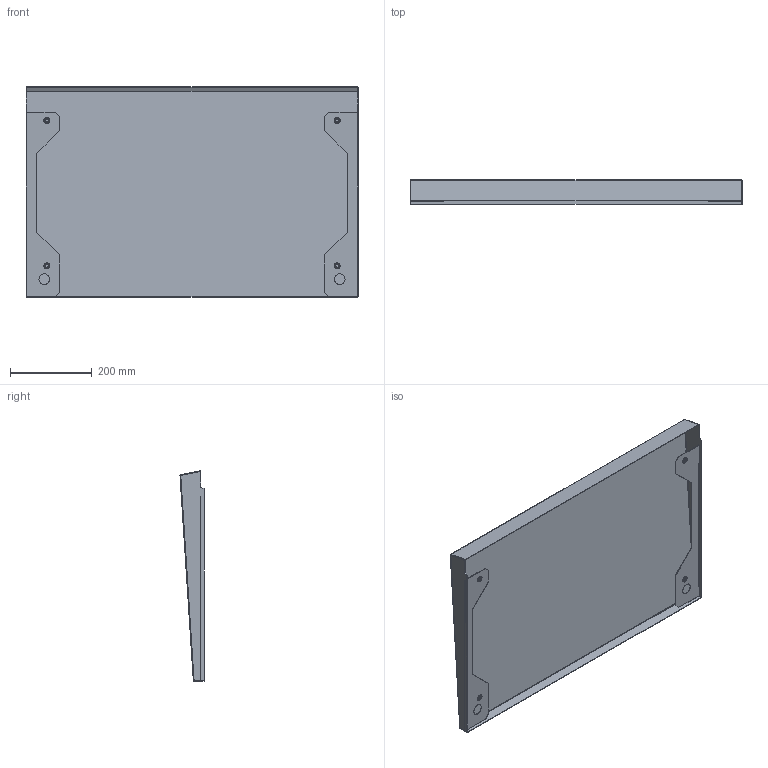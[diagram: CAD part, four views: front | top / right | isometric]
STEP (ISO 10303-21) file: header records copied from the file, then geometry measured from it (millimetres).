
FILE_DESCRIPTION (( 'STEP AP203' ), '1' );
FILE_NAME ('R 80.50 Cﾁ ﾊ鰀靍裲 鈞隆.STEP', '2012-11-21T04:25:52', ( 'system' ), ( '' ), 'SwSTEP 2.0', 'SolidWorks 2012', '' );
FILE_SCHEMA (( 'CONFIG_CONTROL_DESIGN' ));
Length unit declared in the file: millimetre
Products named in the file (1): R 80.50 Cﾁ ﾊ鰀靍裲 鈞隆
Bounding box: 810 x 58.84 x 513.49 mm (x, y, z)
Volume: 777014.5 mm3; surface area: 1115265.6 mm2
Topology: 5 solids, 5 shells, 152 faces, 354 edges, 224 vertices
Faces by surface type: cylinder 60, plane 60, torus 16, cone 8, sphere 8
Entity records: 4419 total; most frequent: DIRECTION 824, CARTESIAN_POINT 731, ORIENTED_EDGE 692, EDGE_CURVE 346, AXIS2_PLACEMENT_3D 329, VERTEX_POINT 220, EDGE_LOOP 188, CIRCLE 176
